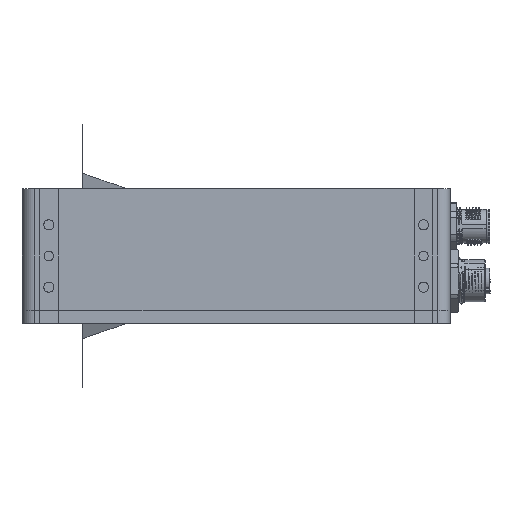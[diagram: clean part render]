
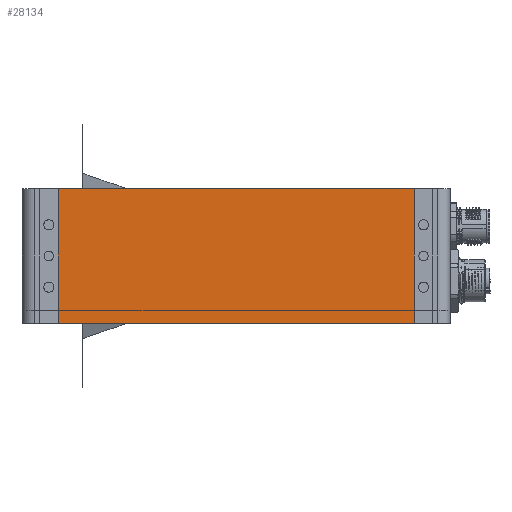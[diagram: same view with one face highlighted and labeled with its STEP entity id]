
A CAD part, front view. The second image highlights one B-rep face of the part: STEP entity #28134.
In plain terms, the highlighted planar face has unit normal (0, -1, 0).
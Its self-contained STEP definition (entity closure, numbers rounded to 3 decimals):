
#2076=PLANE('',#30643);
#3158=LINE('',#43167,#5317);
#3255=LINE('',#43485,#5414);
#3256=LINE('',#43488,#5415);
#3257=LINE('',#43489,#5416);
#5317=VECTOR('',#34775,10.);
#5414=VECTOR('',#35146,10.);
#5415=VECTOR('',#35149,10.);
#5416=VECTOR('',#35150,10.);
#8011=FACE_OUTER_BOUND('',#9812,.T.);
#9812=EDGE_LOOP('',(#21609,#21610,#21611,#21612));
#13274=VERTEX_POINT('',#43164);
#13275=VERTEX_POINT('',#43166);
#13359=VERTEX_POINT('',#43483);
#13360=VERTEX_POINT('',#43487);
#16297=EDGE_CURVE('',#13274,#13275,#3158,.T.);
#16446=EDGE_CURVE('',#13274,#13359,#3255,.T.);
#16447=EDGE_CURVE('',#13360,#13359,#3256,.T.);
#16448=EDGE_CURVE('',#13275,#13360,#3257,.T.);
#21609=ORIENTED_EDGE('',*,*,#16297,.F.);
#21610=ORIENTED_EDGE('',*,*,#16446,.T.);
#21611=ORIENTED_EDGE('',*,*,#16447,.F.);
#21612=ORIENTED_EDGE('',*,*,#16448,.F.);
#28134=ADVANCED_FACE('',(#8011),#2076,.T.);
#30643=AXIS2_PLACEMENT_3D('',#43486,#35147,#35148);
#34775=DIRECTION('',(1.,0.,0.));
#35146=DIRECTION('',(0.,0.,-1.));
#35147=DIRECTION('center_axis',(0.,-1.,0.));
#35148=DIRECTION('ref_axis',(-1.,0.,0.));
#35149=DIRECTION('',(-1.,0.,0.));
#35150=DIRECTION('',(0.,0.,-1.));
#43164=CARTESIAN_POINT('',(11.5,0.,0.));
#43166=CARTESIAN_POINT('',(125.5,0.,0.));
#43167=CARTESIAN_POINT('',(11.5,0.,0.));
#43483=CARTESIAN_POINT('',(11.5,0.,-43.));
#43485=CARTESIAN_POINT('',(11.5,0.,0.));
#43486=CARTESIAN_POINT('Origin',(125.5,0.,0.));
#43487=CARTESIAN_POINT('',(125.5,0.,-43.));
#43488=CARTESIAN_POINT('',(11.5,0.,-43.));
#43489=CARTESIAN_POINT('',(125.5,0.,0.));
